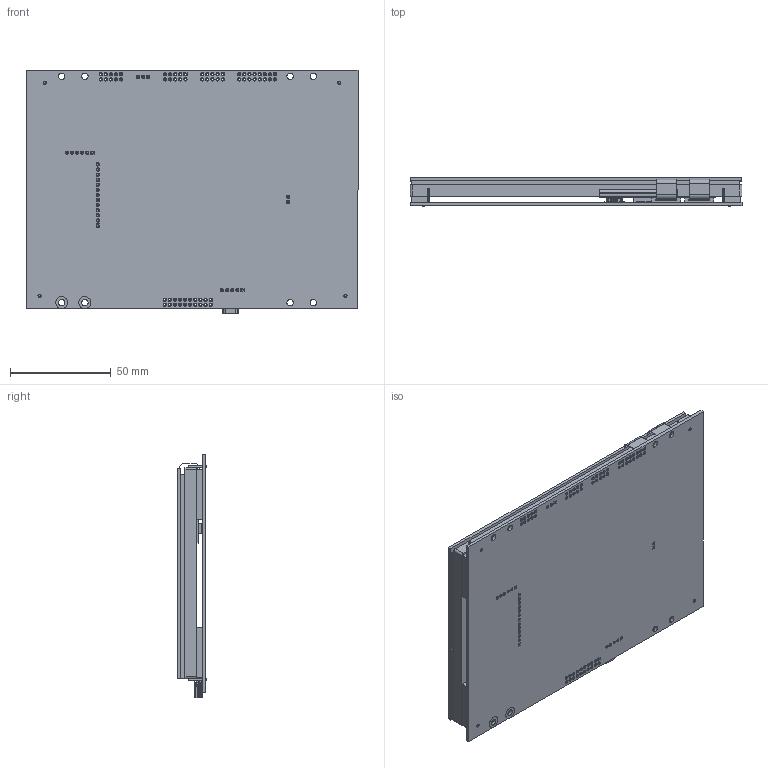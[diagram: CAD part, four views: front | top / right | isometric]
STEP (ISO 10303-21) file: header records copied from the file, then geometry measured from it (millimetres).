
FILE_DESCRIPTION (( 'STEP AP214' ), '1' );
FILE_NAME ('TU800x480C-K61XA1MU.STEP', '2015-02-24T10:48:11', ( '' ), ( '' ), 'SwSTEP 2.0', 'SolidWorks 2015', '' );
FILE_SCHEMA (( 'AUTOMOTIVE_DESIGN' ));
Length unit declared in the file: millimetre
Products named in the file (14): TU800x480C-K612A1-m; TU800x480C-K61XA1MU; MCBK42; Micro SD; MOLEX - 54819-0572 - Mini USB; MPCT Conn 7; MPCT
Assembly tree (7 placements, depth 2):
  TU800x480C-K612A1-m
  TU800x480C-K61XA1MU
    TU800x480C-K612A1-m
    MPCT
    MPCT Conn 7  x2
    MOLEX - 54819-0572 - Mini USB
    Micro SD
    MCBK42
  MCBK42
  Micro SD
  MOLEX - 54819-0572 - Mini USB
Bounding box: 165 x 14 x 121 mm (x, y, z)
Volume: 163063.1 mm3; surface area: 154882.8 mm2
Topology: 9 solids, 10 shells, 1451 faces, 3643 edges, 2406 vertices
Faces by surface type: plane 742, cylinder 679, bspline 30
Entity records: 53997 total; most frequent: CARTESIAN_POINT 8625, DIRECTION 7700, ORIENTED_EDGE 7149, EDGE_CURVE 3607, AXIS2_PLACEMENT_3D 2758, VERTEX_POINT 2382, VECTOR 2184, LINE 2184
